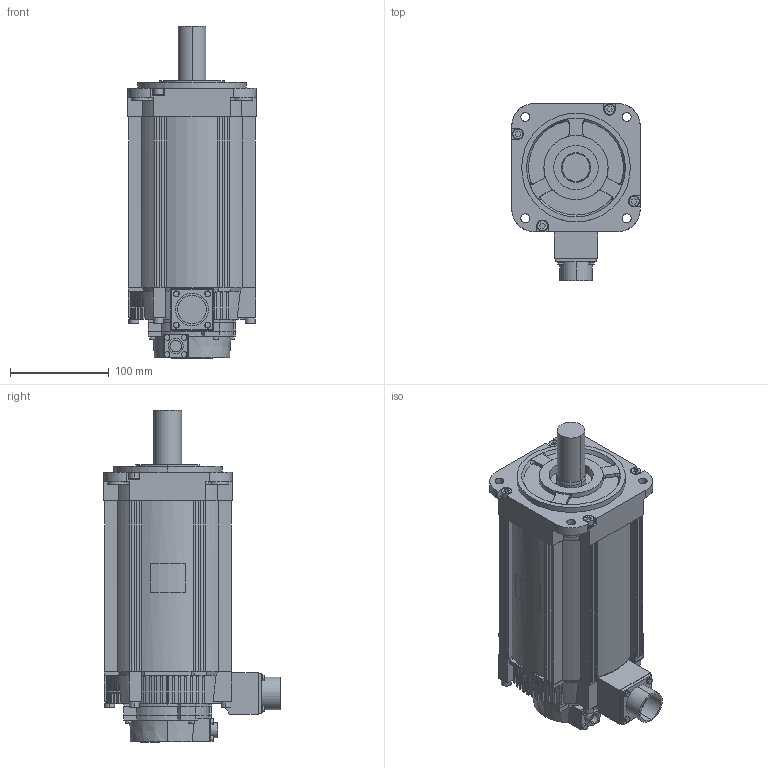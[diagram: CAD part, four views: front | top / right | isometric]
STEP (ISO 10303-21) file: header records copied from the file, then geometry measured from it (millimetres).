
FILE_DESCRIPTION (( 'STEP AP203' ), '1' );
FILE_NAME ('sgm7a_50a_a21.STEP', '2016-02-18T23:40:51', ( '匠エンジニアリング山之内' ), ( 'TAKUMI-Engniaring' ), 'SwSTEP 2.0', 'SolidWorks 2006303', '' );
FILE_SCHEMA (( 'CONFIG_CONTROL_DESIGN' ));
Length unit declared in the file: millimetre
Products named in the file (1): sgm7a_50a_a21
Bounding box: 130 x 179 x 336.1 mm (x, y, z)
Volume: 3529629 mm3; surface area: 227276.8 mm2
Topology: 1 solids, 1 shells, 710 faces, 1883 edges, 1237 vertices
Faces by surface type: plane 476, cylinder 208, cone 20, bspline 6
Entity records: 22539 total; most frequent: CARTESIAN_POINT 4560, ORIENTED_EDGE 3766, DIRECTION 3709, EDGE_CURVE 1883, AXIS2_PLACEMENT_3D 1263, VERTEX_POINT 1237, VECTOR 1183, LINE 1183
